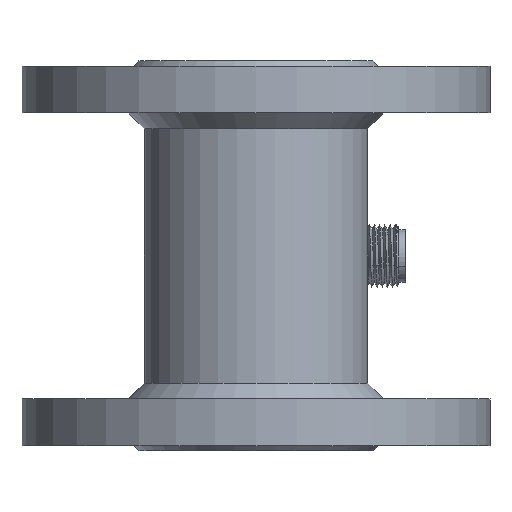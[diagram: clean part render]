
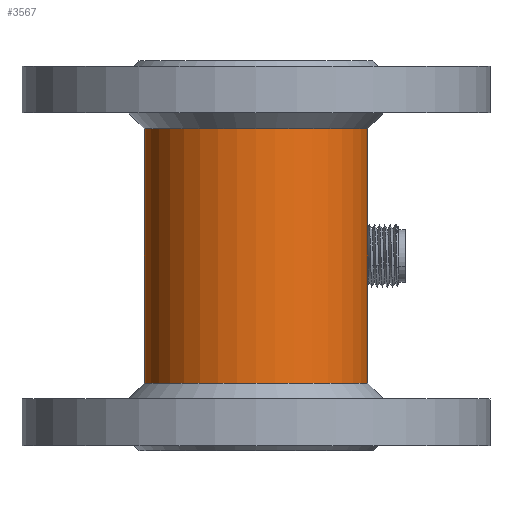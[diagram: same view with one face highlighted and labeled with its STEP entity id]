
A CAD part, front view. The second image highlights one B-rep face of the part: STEP entity #3567.
In plain terms, the highlighted cylindrical face has radius 21.5 mm (diameter 43 mm), a full revolution.
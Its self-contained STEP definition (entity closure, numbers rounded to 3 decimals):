
#2261=FACE_BOUND('',#5312,.T.);
#2262=FACE_BOUND('',#5313,.T.);
#2263=FACE_BOUND('',#5314,.T.);
#2463=CYLINDRICAL_SURFACE('',#15334,21.5);
#2829=CIRCLE('',#15332,21.5);
#2830=CIRCLE('',#15333,21.5);
#3567=ADVANCED_FACE('',(#2261,#2262,#2263),#2463,.T.);
#5312=EDGE_LOOP('',(#9529));
#5313=EDGE_LOOP('',(#9530));
#5314=EDGE_LOOP('',(#9531,#9532,#9533,#9534));
#6060=B_SPLINE_CURVE_WITH_KNOTS('',3,(#31779,#31780,#31781,#31782,#31783,
#31784,#31785,#31786,#31787,#31788),.UNSPECIFIED.,.F.,.F.,(4,2,2,2,4),(0.,
0.25,0.5,0.75,1.),.UNSPECIFIED.);
#6061=B_SPLINE_CURVE_WITH_KNOTS('',3,(#31790,#31791,#31792,#31793,#31794,
#31795,#31796,#31797,#31798,#31799),.UNSPECIFIED.,.F.,.F.,(4,2,2,2,4),(0.,
0.25,0.5,0.75,1.),.UNSPECIFIED.);
#9529=ORIENTED_EDGE('',*,*,#12621,.T.);
#9530=ORIENTED_EDGE('',*,*,#12622,.T.);
#9531=ORIENTED_EDGE('',*,*,#12616,.F.);
#9532=ORIENTED_EDGE('',*,*,#12620,.F.);
#9533=ORIENTED_EDGE('',*,*,#12618,.F.);
#9534=ORIENTED_EDGE('',*,*,#12619,.F.);
#10831=VERTEX_POINT('',#31771);
#10832=VERTEX_POINT('',#31772);
#10833=VERTEX_POINT('',#31774);
#10834=VERTEX_POINT('',#31776);
#10835=VERTEX_POINT('',#31802);
#10836=VERTEX_POINT('',#31804);
#12616=EDGE_CURVE('',#10831,#10833,#13503,.T.);
#12618=EDGE_CURVE('',#10834,#10832,#13504,.T.);
#12619=EDGE_CURVE('',#10833,#10834,#6060,.T.);
#12620=EDGE_CURVE('',#10832,#10831,#6061,.T.);
#12621=EDGE_CURVE('',#10835,#10835,#2829,.T.);
#12622=EDGE_CURVE('',#10836,#10836,#2830,.T.);
#13503=LINE('',#31773,#14454);
#13504=LINE('',#31777,#14455);
#14454=VECTOR('',#18109,1.);
#14455=VECTOR('',#18112,1.);
#15332=AXIS2_PLACEMENT_3D('',#31801,#18119,#18120);
#15333=AXIS2_PLACEMENT_3D('',#31803,#18121,#18122);
#15334=AXIS2_PLACEMENT_3D('',#31805,#18123,#18124);
#18109=DIRECTION('',(0.,0.,-1.));
#18112=DIRECTION('',(0.,0.,1.));
#18119=DIRECTION('',(0.,0.,1.));
#18120=DIRECTION('',(-1.,0.,0.));
#18121=DIRECTION('',(0.,0.,-1.));
#18122=DIRECTION('',(1.,0.,0.));
#18123=DIRECTION('',(0.,0.,-1.));
#18124=DIRECTION('',(1.,0.,0.));
#31771=CARTESIAN_POINT('',(9.055,17.5,8.085));
#31772=CARTESIAN_POINT('',(-9.055,17.5,8.113));
#31773=CARTESIAN_POINT('',(9.055,17.5,-2.));
#31774=CARTESIAN_POINT('',(9.055,17.5,-12.085));
#31776=CARTESIAN_POINT('',(-9.055,17.5,-12.113));
#31777=CARTESIAN_POINT('',(-9.055,17.5,-2.));
#31779=CARTESIAN_POINT('',(9.055,17.5,-12.085));
#31780=CARTESIAN_POINT('',(7.936,18.02,-13.346));
#31781=CARTESIAN_POINT('',(6.624,18.517,-14.371));
#31782=CARTESIAN_POINT('',(3.512,19.272,-15.871));
#31783=CARTESIAN_POINT('',(1.772,19.498,-16.286));
#31784=CARTESIAN_POINT('',(-1.715,19.502,-16.298));
#31785=CARTESIAN_POINT('',(-3.462,19.28,-15.895));
#31786=CARTESIAN_POINT('',(-6.581,18.531,-14.416));
#31787=CARTESIAN_POINT('',(-7.931,18.022,-13.373));
#31788=CARTESIAN_POINT('',(-9.055,17.5,-12.113));
#31790=CARTESIAN_POINT('',(-9.055,17.5,8.113));
#31791=CARTESIAN_POINT('',(-7.933,18.021,9.371));
#31792=CARTESIAN_POINT('',(-6.618,18.519,10.392));
#31793=CARTESIAN_POINT('',(-3.501,19.273,11.883));
#31794=CARTESIAN_POINT('',(-1.76,19.499,12.292));
#31795=CARTESIAN_POINT('',(1.727,19.501,12.293));
#31796=CARTESIAN_POINT('',(3.472,19.278,11.884));
#31797=CARTESIAN_POINT('',(6.587,18.529,10.396));
#31798=CARTESIAN_POINT('',(7.934,18.021,9.348));
#31799=CARTESIAN_POINT('',(9.055,17.5,8.085));
#31801=CARTESIAN_POINT('',(0.,-2.,-26.5));
#31802=CARTESIAN_POINT('',(-21.5,-2.,-26.5));
#31803=CARTESIAN_POINT('',(0.,-2.,22.5));
#31804=CARTESIAN_POINT('',(21.5,-2.,22.5));
#31805=CARTESIAN_POINT('',(0.,-2.,54.5));
